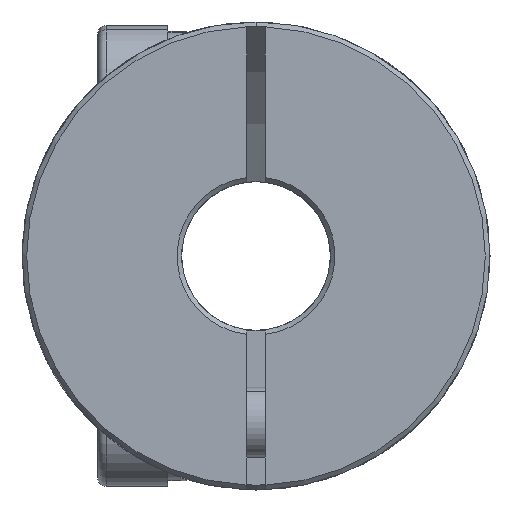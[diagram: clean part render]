
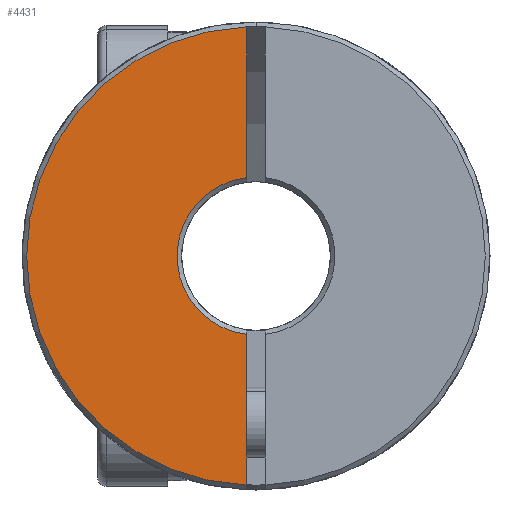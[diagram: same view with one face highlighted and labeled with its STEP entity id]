
A CAD part, front view. The second image highlights one B-rep face of the part: STEP entity #4431.
In plain terms, the highlighted planar face has unit normal (0, -1, 0).
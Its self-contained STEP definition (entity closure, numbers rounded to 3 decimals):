
#158 = AXIS2_PLACEMENT_3D ( 'NONE', #6391, #4738, #4709 ) ;
#193 = DIRECTION ( 'NONE',  ( 0., 1., 0. ) ) ;
#319 = AXIS2_PLACEMENT_3D ( 'NONE', #6538, #193, #5461 ) ;
#520 = VERTEX_POINT ( 'NONE', #5732 ) ;
#935 = VERTEX_POINT ( 'NONE', #5884 ) ;
#1080 = CARTESIAN_POINT ( 'NONE',  ( -0.4, -17.5, -3.351 ) ) ;
#1251 = ORIENTED_EDGE ( 'NONE', *, *, #2423, .T. ) ;
#1260 = EDGE_CURVE ( 'NONE', #520, #5426, #7017, .T. ) ;
#1736 = CARTESIAN_POINT ( 'NONE',  ( -0.4, -17.5, 0. ) ) ;
#1755 = DIRECTION ( 'NONE',  ( 0., 0., -1. ) ) ;
#2294 = AXIS2_PLACEMENT_3D ( 'NONE', #3349, #4535, #3920 ) ;
#2400 = CARTESIAN_POINT ( 'NONE',  ( -0.4, -17.5, -9.792 ) ) ;
#2423 = EDGE_CURVE ( 'NONE', #6339, #935, #2482, .T. ) ;
#2482 = CIRCLE ( 'NONE', #158, 3.375 ) ;
#3188 = VECTOR ( 'NONE', #1755, 1000. ) ;
#3349 = CARTESIAN_POINT ( 'NONE',  ( 0., -17.5, 0. ) ) ;
#3355 = VECTOR ( 'NONE', #6995, 1000. ) ;
#3920 = DIRECTION ( 'NONE',  ( 0., 0., 1. ) ) ;
#4277 = EDGE_CURVE ( 'NONE', #6339, #5426, #4907, .T. ) ;
#4431 = ADVANCED_FACE ( 'NONE', ( #4446 ), #5965, .F. ) ;
#4446 = FACE_OUTER_BOUND ( 'NONE', #4499, .T. ) ;
#4499 = EDGE_LOOP ( 'NONE', ( #6238, #7432, #4842, #1251 ) ) ;
#4535 = DIRECTION ( 'NONE',  ( 0., -1., 0. ) ) ;
#4709 = DIRECTION ( 'NONE',  ( 0., 0., 1. ) ) ;
#4738 = DIRECTION ( 'NONE',  ( 0., 1., 0. ) ) ;
#4842 = ORIENTED_EDGE ( 'NONE', *, *, #4277, .F. ) ;
#4907 = LINE ( 'NONE', #1736, #3188 ) ;
#5382 = EDGE_CURVE ( 'NONE', #520, #935, #5433, .T. ) ;
#5426 = VERTEX_POINT ( 'NONE', #2400 ) ;
#5433 = LINE ( 'NONE', #6411, #3355 ) ;
#5461 = DIRECTION ( 'NONE',  ( 0., 0., 1. ) ) ;
#5732 = CARTESIAN_POINT ( 'NONE',  ( -0.4, -17.5, 9.792 ) ) ;
#5884 = CARTESIAN_POINT ( 'NONE',  ( -0.4, -17.5, 3.351 ) ) ;
#5965 = PLANE ( 'NONE',  #319 ) ;
#6238 = ORIENTED_EDGE ( 'NONE', *, *, #5382, .F. ) ;
#6339 = VERTEX_POINT ( 'NONE', #1080 ) ;
#6391 = CARTESIAN_POINT ( 'NONE',  ( 0., -17.5, 0. ) ) ;
#6411 = CARTESIAN_POINT ( 'NONE',  ( -0.4, -17.5, 0. ) ) ;
#6538 = CARTESIAN_POINT ( 'NONE',  ( 0., -17.5, 0. ) ) ;
#6995 = DIRECTION ( 'NONE',  ( 0., 0., -1. ) ) ;
#7017 = CIRCLE ( 'NONE', #2294, 9.8 ) ;
#7432 = ORIENTED_EDGE ( 'NONE', *, *, #1260, .T. ) ;
